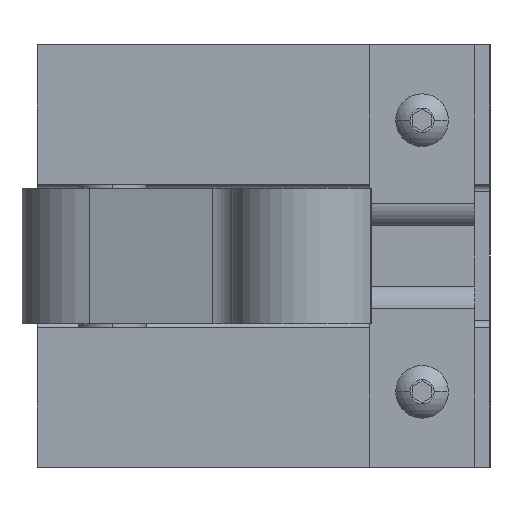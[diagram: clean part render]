
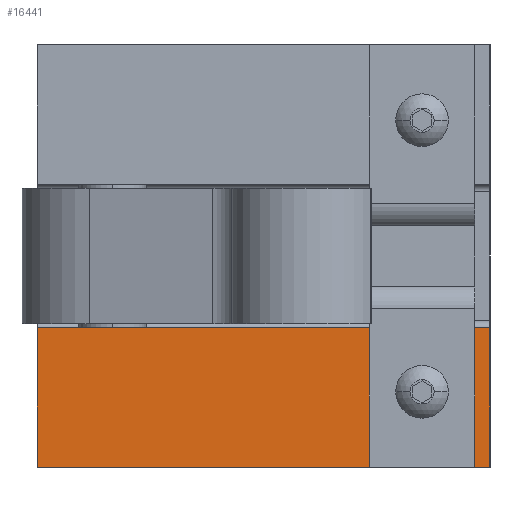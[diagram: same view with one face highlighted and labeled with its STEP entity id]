
A CAD part, left-side view. The second image highlights one B-rep face of the part: STEP entity #16441.
In plain terms, the highlighted planar face has unit normal (-1, 0, 0).
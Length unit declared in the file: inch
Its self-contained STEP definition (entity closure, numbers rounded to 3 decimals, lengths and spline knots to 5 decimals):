
#2899 = DIRECTION ( 'NONE',  ( -1., 0., 0. ) ) ;
#2900 = CARTESIAN_POINT ( 'NONE',  ( 6.16298, 3.46799, -2.875 ) ) ;
#2901 = AXIS2_PLACEMENT_3D ( 'NONE', #2900, #2899, #2926 ) ;
#2902 = CIRCLE ( 'NONE', #2901, 0.125 ) ;
#2926 = DIRECTION ( 'NONE',  ( 0., 0., 1. ) ) ;
#3052 = DIRECTION ( 'NONE',  ( 0., 0., 1. ) ) ;
#3053 = VECTOR ( 'NONE', #3052, 39.37008 ) ;
#3054 = CARTESIAN_POINT ( 'NONE',  ( 6.16298, 2.90599, -3.5 ) ) ;
#3055 = LINE ( 'NONE', #3054, #3053 ) ;
#3056 = CARTESIAN_POINT ( 'NONE',  ( 6.16298, 2.90599, -3.5 ) ) ;
#3057 = DIRECTION ( 'NONE',  ( 0., -1., 0. ) ) ;
#3058 = VECTOR ( 'NONE', #3057, 39.37008 ) ;
#3059 = CARTESIAN_POINT ( 'NONE',  ( 6.16298, 2.90599, -3.5 ) ) ;
#3060 = LINE ( 'NONE', #3059, #3058 ) ;
#3061 = CARTESIAN_POINT ( 'NONE',  ( 6.16298, 2.90599, -2.3425 ) ) ;
#3062 = DIRECTION ( 'NONE',  ( 0., -1., 0. ) ) ;
#3063 = VECTOR ( 'NONE', #3062, 39.37008 ) ;
#3064 = CARTESIAN_POINT ( 'NONE',  ( 6.16298, 2.90599, -2.3425 ) ) ;
#3065 = LINE ( 'NONE', #3064, #3063 ) ;
#3520 = DIRECTION ( 'NONE',  ( 0., 0., 1. ) ) ;
#3521 = DIRECTION ( 'NONE',  ( -1., 0., 0. ) ) ;
#3522 = CARTESIAN_POINT ( 'NONE',  ( 6.16298, 2.90599, -3.5 ) ) ;
#3523 = AXIS2_PLACEMENT_3D ( 'NONE', #3522, #3521, #3520 ) ;
#3525 = PLANE ( 'NONE',  #3523 ) ;
#3526 = FACE_OUTER_BOUND ( 'NONE', #16148, .T. ) ;
#3527 = FACE_BOUND ( 'NONE', #16088, .T. ) ;
#5644 = CARTESIAN_POINT ( 'NONE',  ( 6.16298, 6.65599, -3.5 ) ) ;
#5906 = DIRECTION ( 'NONE',  ( 0., 0., 1. ) ) ;
#5907 = VECTOR ( 'NONE', #5906, 39.37008 ) ;
#5908 = CARTESIAN_POINT ( 'NONE',  ( 6.16298, 6.65599, -3.5 ) ) ;
#5927 = LINE ( 'NONE', #5908, #5907 ) ;
#14247 = CARTESIAN_POINT ( 'NONE',  ( 6.16298, 3.46799, -2.75 ) ) ;
#14248 = DIRECTION ( 'NONE',  ( 0., 0., 1. ) ) ;
#14249 = DIRECTION ( 'NONE',  ( -1., 0., 0. ) ) ;
#14250 = CARTESIAN_POINT ( 'NONE',  ( 6.16298, 3.46799, -2.875 ) ) ;
#14251 = AXIS2_PLACEMENT_3D ( 'NONE', #14250, #14249, #14248 ) ;
#14252 = CIRCLE ( 'NONE', #14251, 0.125 ) ;
#14274 = CARTESIAN_POINT ( 'NONE',  ( 6.16298, 6.65599, -2.3425 ) ) ;
#14684 = CARTESIAN_POINT ( 'NONE',  ( 6.16298, 3.46799, -3. ) ) ;
#16088 = EDGE_LOOP ( 'NONE', ( #16089, #16147 ) ) ;
#16089 = ORIENTED_EDGE ( 'NONE', *, *, #16090, .F. ) ;
#16090 = EDGE_CURVE ( 'NONE', #19613, #19678, #2902, .T. ) ;
#16147 = ORIENTED_EDGE ( 'NONE', *, *, #19612, .F. ) ;
#16148 = EDGE_LOOP ( 'NONE', ( #16149, #16152, #16153, #16156 ) ) ;
#16149 = ORIENTED_EDGE ( 'NONE', *, *, #16150, .F. ) ;
#16150 = EDGE_CURVE ( 'NONE', #19669, #16151, #3065, .T. ) ;
#16151 = VERTEX_POINT ( 'NONE', #3061 ) ;
#16152 = ORIENTED_EDGE ( 'NONE', *, *, #19920, .F. ) ;
#16153 = ORIENTED_EDGE ( 'NONE', *, *, #16154, .T. ) ;
#16154 = EDGE_CURVE ( 'NONE', #19849, #16155, #3060, .T. ) ;
#16155 = VERTEX_POINT ( 'NONE', #3056 ) ;
#16156 = ORIENTED_EDGE ( 'NONE', *, *, #16157, .T. ) ;
#16157 = EDGE_CURVE ( 'NONE', #16155, #16151, #3055, .T. ) ;
#16441 = ADVANCED_FACE ( 'NONE', ( #3527, #3526 ), #3525, .T. ) ;
#19612 = EDGE_CURVE ( 'NONE', #19678, #19613, #14252, .T. ) ;
#19613 = VERTEX_POINT ( 'NONE', #14247 ) ;
#19669 = VERTEX_POINT ( 'NONE', #14274 ) ;
#19678 = VERTEX_POINT ( 'NONE', #14684 ) ;
#19849 = VERTEX_POINT ( 'NONE', #5644 ) ;
#19920 = EDGE_CURVE ( 'NONE', #19849, #19669, #5927, .T. ) ;
